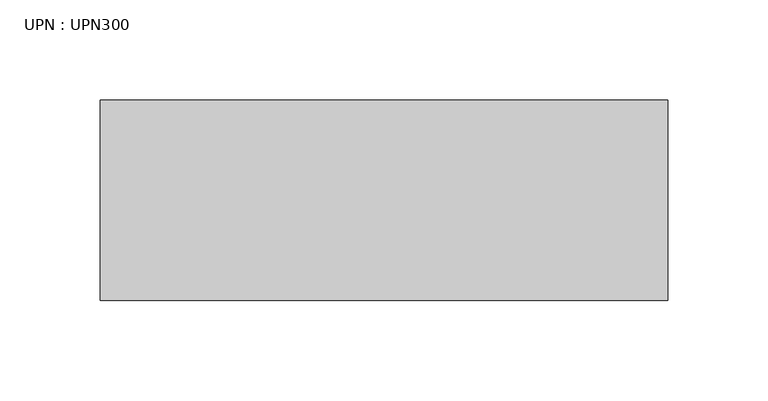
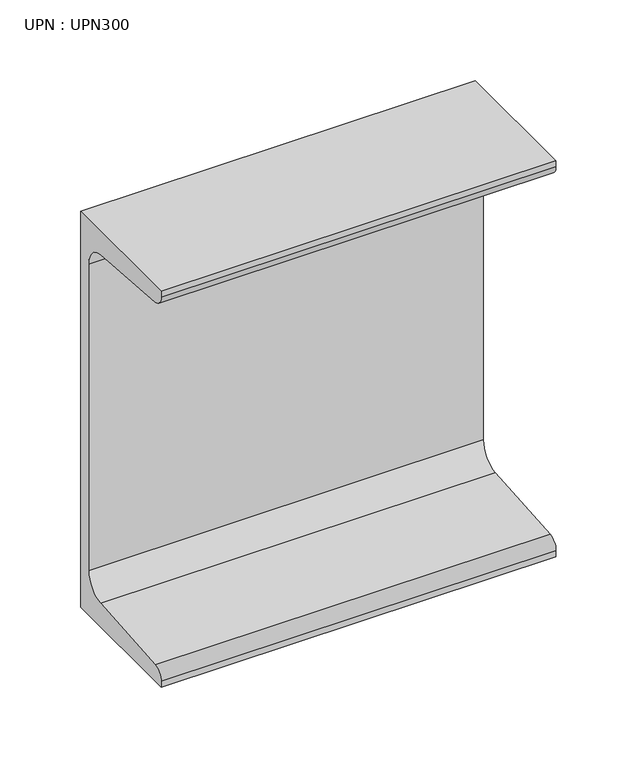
"""IFC4 building model written with IfcOpenShell, lengths in millimetres: beam geometry, UPN : UPN300."""

from ifc_helpers import new_model, si_unit, point, frame, frame_2d, origin, place, context, project, spatial, polyline, circle_curve, trimmed, segment, composite_curve, outline, extrude, source, transform, mapped, element, save


def upn_upn300_b5fa72a9(model_context):
    return source(origin(), model_context, "Body", "SweptSolid", [
        extrude(outline(composite_curve([segment(polyline([(27.0, 150.0), (27.0, -150.0), (-73.0, -150.0), (-73.0, -145.3826224)]), True, "CONTINUOUS"), segment(trimmed(circle_curve(frame_2d((-65.0, -145.3826224)), 8.0), [point((-73.0, -145.3826224))], [point((-65.637416, -137.4080566))], False, "CARTESIAN"), True, "CONTINUOUS"), segment(polyline([(-65.637416, -137.4080566), (2.274832, -131.9797543)]), True, "CONTINUOUS"), segment(trimmed(circle_curve(frame_2d((1.0, -116.0306225)), 16.0), [point((2.274832, -131.9797543))], [point((17.0, -116.0306225))], True, "CARTESIAN"), True, "CONTINUOUS"), segment(polyline([(17.0, -116.0306225), (17.0, 116.0306225)]), True, "CONTINUOUS"), segment(trimmed(circle_curve(frame_2d((1.0, 116.0306225)), 16.0), [point((17.0, 116.0306225))], [point((2.274832, 131.9797543))], True, "CARTESIAN"), True, "CONTINUOUS"), segment(polyline([(2.274832, 131.9797543), (-65.637416, 137.4080566)]), True, "CONTINUOUS"), segment(trimmed(circle_curve(frame_2d((-65.0, 145.3826224)), 8.0), [point((-65.637416, 137.4080566))], [point((-73.0, 145.3826224))], False, "CARTESIAN"), True, "CONTINUOUS"), segment(polyline([(-73.0, 145.3826224), (-73.0, 150.0), (27.0, 150.0)]), True, "CONTINUOUS")], self_intersect=False)), frame((-128.0, 0.0, 0.0), z_axis=(1.0, 0.0, 0.0), x_axis=(0.0, 1.0, 0.0)), (0.0, 0.0, 1.0), 282.9),
    ])


if __name__ == "__main__":
    model = new_model("IFC4")
    model_context = context("Model", 3, world=origin())
    ifc_project = project(units=[si_unit("LENGTHUNIT", "METRE", prefix="MILLI")], contexts=[model_context])
    site = spatial("IfcSite", under=ifc_project)
    building = spatial("IfcBuilding", under=site)
    placement = place(None, origin())
    upn_upn300_shape = upn_upn300_b5fa72a9(model_context)
    element("IfcBeam", 1, ObjectType="UPN : UPN300", at=placement, inside=building, context=model_context, shape_type="MappedRepresentation", body=[
        mapped(upn_upn300_shape, transform((0.0, 0.0, 0.0), x_axis=(1.0, 0.0, 0.0), y_axis=(0.0, 1.0, 0.0), z_axis=(0.0, 0.0, 1.0))),
    ])
    save(model, "model.ifc")
